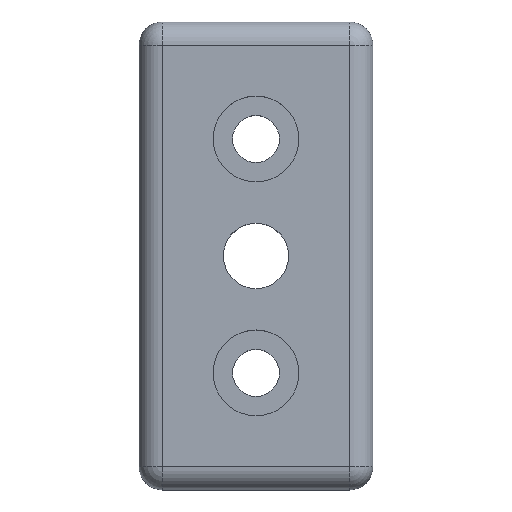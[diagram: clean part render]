
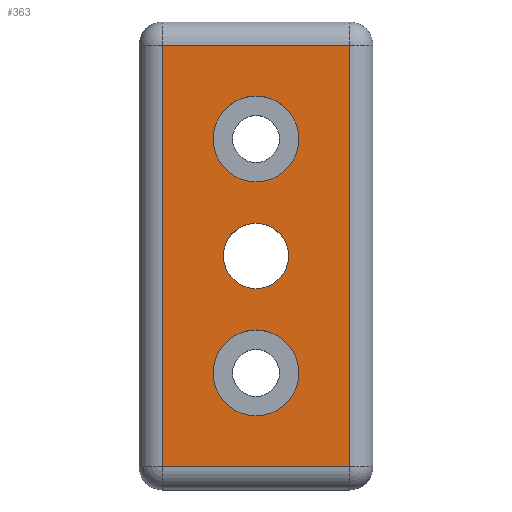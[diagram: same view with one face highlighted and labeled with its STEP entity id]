
A CAD part, top view. The second image highlights one B-rep face of the part: STEP entity #363.
In plain terms, the highlighted planar face has unit normal (0, 0, 1).
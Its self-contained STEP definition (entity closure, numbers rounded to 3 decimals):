
#32=CIRCLE('',#410,4.188);
#33=CIRCLE('',#411,5.5);
#34=CIRCLE('',#412,5.5);
#95=ORIENTED_EDGE('',*,*,#179,.T.);
#96=ORIENTED_EDGE('',*,*,#180,.T.);
#97=ORIENTED_EDGE('',*,*,#181,.T.);
#98=ORIENTED_EDGE('',*,*,#182,.T.);
#99=ORIENTED_EDGE('',*,*,#183,.T.);
#100=ORIENTED_EDGE('',*,*,#184,.T.);
#101=ORIENTED_EDGE('',*,*,#185,.T.);
#179=EDGE_CURVE('',#217,#217,#32,.T.);
#180=EDGE_CURVE('',#218,#218,#33,.T.);
#181=EDGE_CURVE('',#219,#219,#34,.T.);
#182=EDGE_CURVE('',#220,#221,#247,.T.);
#183=EDGE_CURVE('',#221,#222,#248,.T.);
#184=EDGE_CURVE('',#222,#223,#249,.T.);
#185=EDGE_CURVE('',#223,#220,#250,.T.);
#217=VERTEX_POINT('',#619);
#218=VERTEX_POINT('',#621);
#219=VERTEX_POINT('',#623);
#220=VERTEX_POINT('',#625);
#221=VERTEX_POINT('',#626);
#222=VERTEX_POINT('',#628);
#223=VERTEX_POINT('',#630);
#247=LINE('',#624,#267);
#248=LINE('',#627,#268);
#249=LINE('',#629,#269);
#250=LINE('',#631,#270);
#267=VECTOR('',#502,1000.);
#268=VECTOR('',#503,1000.);
#269=VECTOR('',#504,1000.);
#270=VECTOR('',#505,1000.);
#279=EDGE_LOOP('',(#95));
#280=EDGE_LOOP('',(#96));
#281=EDGE_LOOP('',(#97));
#282=EDGE_LOOP('',(#98,#99,#100,#101));
#317=FACE_BOUND('',#279,.T.);
#318=FACE_BOUND('',#280,.T.);
#319=FACE_BOUND('',#281,.T.);
#320=FACE_BOUND('',#282,.T.);
#351=PLANE('',#409);
#363=ADVANCED_FACE('',(#317,#318,#319,#320),#351,.T.);
#409=AXIS2_PLACEMENT_3D('',#617,#494,#495);
#410=AXIS2_PLACEMENT_3D('',#618,#496,#497);
#411=AXIS2_PLACEMENT_3D('',#620,#498,#499);
#412=AXIS2_PLACEMENT_3D('',#622,#500,#501);
#494=DIRECTION('',(0.,0.,1.));
#495=DIRECTION('',(1.,0.,0.));
#496=DIRECTION('',(0.,0.,-1.));
#497=DIRECTION('',(-1.,0.,0.));
#498=DIRECTION('',(0.,0.,-1.));
#499=DIRECTION('',(-1.,0.,0.));
#500=DIRECTION('',(0.,0.,-1.));
#501=DIRECTION('',(-1.,0.,0.));
#502=DIRECTION('',(0.,1.,0.));
#503=DIRECTION('',(-1.,0.,0.));
#504=DIRECTION('',(0.,-1.,0.));
#505=DIRECTION('',(1.,0.,0.));
#617=CARTESIAN_POINT('',(-12.,-27.,12.));
#618=CARTESIAN_POINT('',(0.,0.,12.));
#619=CARTESIAN_POINT('',(-4.188,0.,12.));
#620=CARTESIAN_POINT('',(0.,-15.,12.));
#621=CARTESIAN_POINT('',(-5.5,-15.,12.));
#622=CARTESIAN_POINT('',(0.,15.,12.));
#623=CARTESIAN_POINT('',(-5.5,15.,12.));
#624=CARTESIAN_POINT('',(12.,27.,12.));
#625=CARTESIAN_POINT('',(12.,-27.,12.));
#626=CARTESIAN_POINT('',(12.,27.,12.));
#627=CARTESIAN_POINT('',(-12.,27.,12.));
#628=CARTESIAN_POINT('',(-12.,27.,12.));
#629=CARTESIAN_POINT('',(-12.,-27.,12.));
#630=CARTESIAN_POINT('',(-12.,-27.,12.));
#631=CARTESIAN_POINT('',(12.,-27.,12.));
